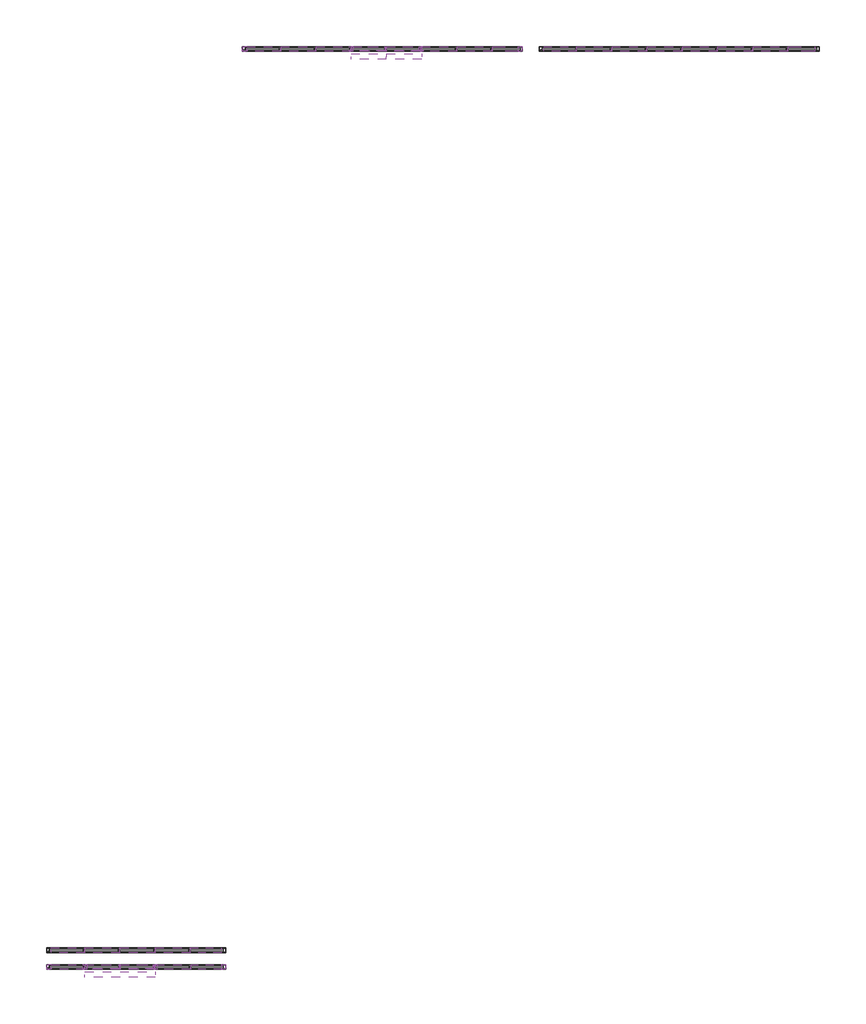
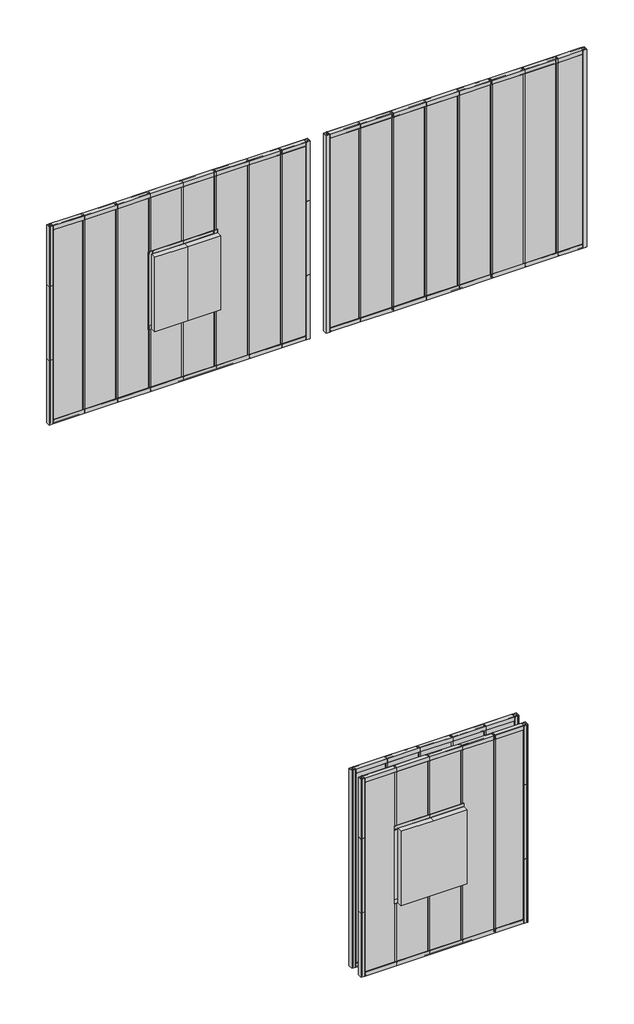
# One storey: 80 members, 33 plates.
"""IFC4 building model written with IfcOpenShell, lengths in millimetres."""

from ifc_helpers import new_model, si_unit, origin, place, context, project, spatial, transform, mapped, element, save
from components import rectangular_mullion_6ba87b63, rectangular_mullion_154195c3, rectangular_mullion_a7efbd97, rectangular_mullion_c77fbf88, rectangular_mullion_2210d2ad, rectangular_mullion_9c50ca3c, rectangular_mullion_bd61cf46, rectangular_mullion_d58dc353, rectangular_mullion_98b11ca7, rectangular_mullion_57ca20b1, rectangular_mullion_f377401c, rectangular_mullion_c68886c0, rectangular_mullion_0c10ebcb, rectangular_mullion_6e9d6120, rectangular_mullion_48fdb4e5, rectangular_mullion_933b9407, rectangular_mullion_0d149754, rectangular_mullion_8443ba7e, rectangular_mullion_7cea1330, rectangular_mullion_cee80cdc, rectangular_mullion_49ac0a23, rectangular_mullion_15ac1ae4, rectangular_mullion_7e643ca8, rectangular_mullion_a26f31a5, rectangular_mullion_a8516909, rectangular_mullion_61dcb10f, rectangular_mullion_6c52e781, rectangular_mullion_8d96c27a, rectangular_mullion_cb80de62, rectangular_mullion_58b0a984, rectangular_mullion_98820b6d, rectangular_mullion_8fb4c4e3, rectangular_mullion_66a7f719, rectangular_mullion_1a0bf495, rectangular_mullion_6eac9937, rectangular_mullion_f0db64cb, plate_2a7304a0, plate_47ad7690, plate_0a45880f, plate_dd9d4cbf, plate_1471c6be, plate_6cc84480, plate_de253ded, plate_c6edde3f, plate_110dad97, empty_system_panel_empty_d80a8f59, empty_system_panel_empty_8161270b

model = new_model("IFC4")

# Units and contexts
model_context = context("Model", 3, world=origin())
ifc_project = project(units=[si_unit("LENGTHUNIT", "METRE", prefix="MILLI")], contexts=[model_context])

# Site, building, storey
site = spatial("IfcSite", under=ifc_project)
building = spatial("IfcBuilding", under=site)
storey = spatial("IfcBuildingStorey", under=building, Name="Danpal-K7+NM", Elevation=0.0)

# Members
placement = place(None, origin())
rectangular_mullion_shape = rectangular_mullion_6ba87b63(model_context)
element("IfcMember", 1, ObjectType="Rectangular Mullion : Danpal_Airpt_End-Mullion_B1", at=placement, inside=storey, context=model_context, shape_type="MappedRepresentation", body=[
    mapped(rectangular_mullion_shape, transform((664.2822678, 2317.5512666, 2800.0), x_axis=(-1.0, 0.0, 0.0), y_axis=(0.0, -1.0, 0.0), z_axis=(0.0, 0.0, 1.0))),
])
element("IfcMember", 2, ObjectType="Rectangular Mullion : Danpal_Airpt_End-Mullion_B1", at=placement, inside=storey, context=model_context, shape_type="MappedRepresentation", body=[
    mapped(rectangular_mullion_shape, transform((4164.2822678, 18717.5512666, 2800.0), x_axis=(-1.0, 0.0, 0.0), y_axis=(0.0, -1.0, 0.0), z_axis=(0.0, 0.0, 1.0))),
])
rectangular_mullion_2_shape = rectangular_mullion_154195c3(model_context)
element("IfcMember", 3, ObjectType="Rectangular Mullion : Danpal_Airpt_End-Mullion_B2", at=placement, inside=storey, context=model_context, shape_type="MappedRepresentation", body=[
    mapped(rectangular_mullion_2_shape, transform((3864.2822678, 2317.5512666, 1300.0), x_axis=(1.0, 0.0, 0.0), y_axis=(0.0, -1.0, 0.0), z_axis=(0.0, 0.0, -1.0))),
])
element("IfcMember", 4, ObjectType="Rectangular Mullion : Danpal_Airpt_End-Mullion_B2", at=placement, inside=storey, context=model_context, shape_type="MappedRepresentation", body=[
    mapped(rectangular_mullion_2_shape, transform((9164.2822678, 18717.5512666, 1300.0), x_axis=(1.0, 0.0, 0.0), y_axis=(0.0, -1.0, 0.0), z_axis=(0.0, 0.0, -1.0))),
])
rectangular_mullion_3_shape = rectangular_mullion_a7efbd97(model_context)
element("IfcMember", 5, ObjectType="Rectangular Mullion : Danpal_Airpt_End-Mullion_B2", at=placement, inside=storey, context=model_context, shape_type="MappedRepresentation", body=[
    mapped(rectangular_mullion_3_shape, transform((1979.276364, 2317.5512666, 4000.0), x_axis=(0.0, 0.0, 1.0), y_axis=(0.0, -1.0, 0.0), z_axis=(1.0, 0.0, 0.0))),
])
element("IfcMember", 6, ObjectType="Rectangular Mullion : Danpal_Airpt_End-Mullion_B2", at=placement, inside=storey, context=model_context, shape_type="MappedRepresentation", body=[
    mapped(rectangular_mullion_3_shape, transform((2609.276364, 2317.5512666, 4000.0), x_axis=(0.0, 0.0, 1.0), y_axis=(0.0, -1.0, 0.0), z_axis=(1.0, 0.0, 0.0))),
])
element("IfcMember", 7, ObjectType="Rectangular Mullion : Danpal_Airpt_End-Mullion_B2", at=placement, inside=storey, context=model_context, shape_type="MappedRepresentation", body=[
    mapped(rectangular_mullion_3_shape, transform((3239.276364, 2317.5512666, 4000.0), x_axis=(0.0, 0.0, 1.0), y_axis=(0.0, -1.0, 0.0), z_axis=(1.0, 0.0, 0.0))),
])
element("IfcMember", 8, ObjectType="Rectangular Mullion : Danpal_Airpt_End-Mullion_B2", at=placement, inside=storey, context=model_context, shape_type="MappedRepresentation", body=[
    mapped(rectangular_mullion_3_shape, transform((8624.2238538, 18717.5512666, 4000.0), x_axis=(0.0, 0.0, 1.0), y_axis=(0.0, -1.0, 0.0), z_axis=(1.0, 0.0, 0.0))),
])
element("IfcMember", 9, ObjectType="Rectangular Mullion : Danpal_Airpt_End-Mullion_B2", at=placement, inside=storey, context=model_context, shape_type="MappedRepresentation", body=[
    mapped(rectangular_mullion_3_shape, transform((5474.2238538, 18717.5512666, 4000.0), x_axis=(0.0, 0.0, 1.0), y_axis=(0.0, -1.0, 0.0), z_axis=(1.0, 0.0, 0.0))),
])
element("IfcMember", 10, ObjectType="Rectangular Mullion : Danpal_Airpt_End-Mullion_B2", at=placement, inside=storey, context=model_context, shape_type="MappedRepresentation", body=[
    mapped(rectangular_mullion_3_shape, transform((13906.1999142, 18717.5512666, 4000.0), x_axis=(0.0, 0.0, 1.0), y_axis=(0.0, -1.0, 0.0), z_axis=(1.0, 0.0, 0.0))),
])
element("IfcMember", 11, ObjectType="Rectangular Mullion : Danpal_Airpt_End-Mullion_B2", at=placement, inside=storey, context=model_context, shape_type="MappedRepresentation", body=[
    mapped(rectangular_mullion_3_shape, transform((10756.1999142, 18717.5512666, 4000.0), x_axis=(0.0, 0.0, 1.0), y_axis=(0.0, -1.0, 0.0), z_axis=(1.0, 0.0, 0.0))),
])
rectangular_mullion_4_shape = rectangular_mullion_c77fbf88(model_context)
element("IfcMember", 12, ObjectType="Rectangular Mullion : Danpal_Airpt_End-Mullion_B1", at=placement, inside=storey, context=model_context, shape_type="MappedRepresentation", body=[
    mapped(rectangular_mullion_4_shape, transform((1349.276364, 2317.5512666, 0.0), x_axis=(0.0, 0.0, -1.0), y_axis=(0.0, -1.0, 0.0), z_axis=(-1.0, 0.0, 0.0))),
])
element("IfcMember", 13, ObjectType="Rectangular Mullion : Danpal_Airpt_End-Mullion_B1", at=placement, inside=storey, context=model_context, shape_type="MappedRepresentation", body=[
    mapped(rectangular_mullion_4_shape, transform((1979.276364, 2317.5512666, 0.0), x_axis=(0.0, 0.0, -1.0), y_axis=(0.0, -1.0, 0.0), z_axis=(-1.0, 0.0, 0.0))),
])
element("IfcMember", 14, ObjectType="Rectangular Mullion : Danpal_Airpt_End-Mullion_B1", at=placement, inside=storey, context=model_context, shape_type="MappedRepresentation", body=[
    mapped(rectangular_mullion_4_shape, transform((2609.276364, 2317.5512666, 0.0), x_axis=(0.0, 0.0, -1.0), y_axis=(0.0, -1.0, 0.0), z_axis=(-1.0, 0.0, 0.0))),
])
element("IfcMember", 15, ObjectType="Rectangular Mullion : Danpal_Airpt_End-Mullion_B1", at=placement, inside=storey, context=model_context, shape_type="MappedRepresentation", body=[
    mapped(rectangular_mullion_4_shape, transform((4844.2238538, 18717.5512666, 0.0), x_axis=(0.0, 0.0, -1.0), y_axis=(0.0, -1.0, 0.0), z_axis=(-1.0, 0.0, 0.0))),
])
element("IfcMember", 16, ObjectType="Rectangular Mullion : Danpal_Airpt_End-Mullion_B1", at=placement, inside=storey, context=model_context, shape_type="MappedRepresentation", body=[
    mapped(rectangular_mullion_4_shape, transform((5474.2238538, 18717.5512666, 0.0), x_axis=(0.0, 0.0, -1.0), y_axis=(0.0, -1.0, 0.0), z_axis=(-1.0, 0.0, 0.0))),
])
element("IfcMember", 17, ObjectType="Rectangular Mullion : Danpal_Airpt_End-Mullion_B1", at=placement, inside=storey, context=model_context, shape_type="MappedRepresentation", body=[
    mapped(rectangular_mullion_4_shape, transform((10126.1999142, 18717.5512666, 0.0), x_axis=(0.0, 0.0, -1.0), y_axis=(0.0, -1.0, 0.0), z_axis=(-1.0, 0.0, 0.0))),
])
element("IfcMember", 18, ObjectType="Rectangular Mullion : Danpal_Airpt_End-Mullion_B1", at=placement, inside=storey, context=model_context, shape_type="MappedRepresentation", body=[
    mapped(rectangular_mullion_4_shape, transform((10756.1999142, 18717.5512666, 0.0), x_axis=(0.0, 0.0, -1.0), y_axis=(0.0, -1.0, 0.0), z_axis=(-1.0, 0.0, 0.0))),
])
rectangular_mullion_5_shape = rectangular_mullion_2210d2ad(model_context)
element("IfcMember", 19, ObjectType="Rectangular Mullion : Danpal_Airpt_End-Mullion_B1", at=placement, inside=storey, context=model_context, shape_type="MappedRepresentation", body=[
    mapped(rectangular_mullion_5_shape, transform((664.2822678, 2317.5512666, 1300.0), x_axis=(-1.0, 0.0, 0.0), y_axis=(0.0, -1.0, 0.0), z_axis=(0.0, 0.0, 1.0))),
])
element("IfcMember", 20, ObjectType="Rectangular Mullion : Danpal_Airpt_End-Mullion_B1", at=placement, inside=storey, context=model_context, shape_type="MappedRepresentation", body=[
    mapped(rectangular_mullion_5_shape, transform((4164.2822678, 18717.5512666, 1300.0), x_axis=(-1.0, 0.0, 0.0), y_axis=(0.0, -1.0, 0.0), z_axis=(0.0, 0.0, 1.0))),
])
rectangular_mullion_6_shape = rectangular_mullion_9c50ca3c(model_context)
element("IfcMember", 21, ObjectType="Rectangular Mullion : Danpal_Airpt_End-Mullion_B1", at=placement, inside=storey, context=model_context, shape_type="MappedRepresentation", body=[
    mapped(rectangular_mullion_6_shape, transform((664.2822678, 2317.5512666, 4000.0), x_axis=(-1.0, 0.0, 0.0), y_axis=(0.0, -1.0, 0.0), z_axis=(0.0, 0.0, 1.0))),
])
rectangular_mullion_7_shape = rectangular_mullion_bd61cf46(model_context)
element("IfcMember", 22, ObjectType="Rectangular Mullion : Danpal_Airpt_End-Mullion_B2", at=placement, inside=storey, context=model_context, shape_type="MappedRepresentation", body=[
    mapped(rectangular_mullion_7_shape, transform((3864.2822678, 2317.5512666, 2800.0), x_axis=(1.0, 0.0, 0.0), y_axis=(0.0, -1.0, 0.0), z_axis=(0.0, 0.0, -1.0))),
])
element("IfcMember", 23, ObjectType="Rectangular Mullion : Danpal_Airpt_End-Mullion_B2", at=placement, inside=storey, context=model_context, shape_type="MappedRepresentation", body=[
    mapped(rectangular_mullion_7_shape, transform((9164.2822678, 18717.5512666, 2800.0), x_axis=(1.0, 0.0, 0.0), y_axis=(0.0, -1.0, 0.0), z_axis=(0.0, 0.0, -1.0))),
])
rectangular_mullion_8_shape = rectangular_mullion_d58dc353(model_context)
element("IfcMember", 24, ObjectType="Rectangular Mullion : Danpal_Airpt_End-Mullion_B2", at=placement, inside=storey, context=model_context, shape_type="MappedRepresentation", body=[
    mapped(rectangular_mullion_8_shape, transform((3864.2822678, 2317.5512666, 0.0), x_axis=(1.0, 0.0, 0.0), y_axis=(0.0, -1.0, 0.0), z_axis=(0.0, 0.0, -1.0))),
])
rectangular_mullion_9_shape = rectangular_mullion_98b11ca7(model_context)
element("IfcMember", 25, ObjectType="Rectangular Mullion : Danpal_Airpt_End-Mullion_B2", at=placement, inside=storey, context=model_context, shape_type="MappedRepresentation", body=[
    mapped(rectangular_mullion_9_shape, transform((1349.276364, 2317.5512666, 4000.0), x_axis=(0.0, 0.0, 1.0), y_axis=(0.0, -1.0, 0.0), z_axis=(1.0, 0.0, 0.0))),
])
rectangular_mullion_10_shape = rectangular_mullion_57ca20b1(model_context)
element("IfcMember", 26, ObjectType="Rectangular Mullion : Danpal_Airpt_End-Mullion_B1", at=placement, inside=storey, context=model_context, shape_type="MappedRepresentation", body=[
    mapped(rectangular_mullion_10_shape, transform((746.1415002, 2317.5512666, 0.0), x_axis=(0.0, 0.0, -1.0), y_axis=(0.0, -1.0, 0.0), z_axis=(-1.0, 0.0, 0.0))),
])
rectangular_mullion_11_shape = rectangular_mullion_f377401c(model_context)
element("IfcMember", 27, ObjectType="Rectangular Mullion : Danpal_Airpt_End-Mullion_B1", at=placement, inside=storey, context=model_context, shape_type="MappedRepresentation", body=[
    mapped(rectangular_mullion_11_shape, transform((2641.1940104, 2317.5512666, 2800.0), x_axis=(0.0, 0.0, 1.0), y_axis=(0.0, -1.0, 0.0), z_axis=(1.0, 0.0, 0.0))),
])
rectangular_mullion_12_shape = rectangular_mullion_c68886c0(model_context)
element("IfcMember", 28, ObjectType="Rectangular Mullion : Danpal_Airpt_End-Mullion_B2", at=placement, inside=storey, context=model_context, shape_type="MappedRepresentation", body=[
    mapped(rectangular_mullion_12_shape, transform((2641.1940104, 2317.5512666, 1300.0), x_axis=(0.0, 0.0, 1.0), y_axis=(0.0, -1.0, 0.0), z_axis=(1.0, 0.0, 0.0))),
])
rectangular_mullion_13_shape = rectangular_mullion_0c10ebcb(model_context)
element("IfcMember", 29, ObjectType="Rectangular Mullion : Danpal_Airpt_End-Mullion_B2", at=placement, inside=storey, context=model_context, shape_type="MappedRepresentation", body=[
    mapped(rectangular_mullion_13_shape, transform((3782.4230354, 2317.5512666, 4000.0), x_axis=(0.0, 0.0, 1.0), y_axis=(0.0, -1.0, 0.0), z_axis=(1.0, 0.0, 0.0))),
])
rectangular_mullion_14_shape = rectangular_mullion_6e9d6120(model_context)
element("IfcMember", 30, ObjectType="Rectangular Mullion : Danpal_Airpt_End-Mullion_B1", at=placement, inside=storey, context=model_context, shape_type="MappedRepresentation", body=[
    mapped(rectangular_mullion_14_shape, transform((3239.276364, 2317.5512666, 0.0), x_axis=(0.0, 0.0, -1.0), y_axis=(0.0, -1.0, 0.0), z_axis=(-1.0, 0.0, 0.0))),
])
element("IfcMember", 31, ObjectType="Rectangular Mullion : Danpal_Airpt_End-Mullion_B2", at=placement, inside=storey, context=model_context, shape_type="MappedRepresentation", body=[
    mapped(rectangular_mullion_3_shape, transform((1974.2238538, 2617.5512666, 4000.0), x_axis=(0.0, 0.0, 1.0), y_axis=(0.0, -1.0, 0.0), z_axis=(1.0, 0.0, 0.0))),
])
element("IfcMember", 32, ObjectType="Rectangular Mullion : Danpal_Airpt_End-Mullion_B2", at=placement, inside=storey, context=model_context, shape_type="MappedRepresentation", body=[
    mapped(rectangular_mullion_3_shape, transform((2604.2238538, 2617.5512666, 4000.0), x_axis=(0.0, 0.0, 1.0), y_axis=(0.0, -1.0, 0.0), z_axis=(1.0, 0.0, 0.0))),
])
element("IfcMember", 33, ObjectType="Rectangular Mullion : Danpal_Airpt_End-Mullion_B2", at=placement, inside=storey, context=model_context, shape_type="MappedRepresentation", body=[
    mapped(rectangular_mullion_3_shape, transform((3234.2238538, 2617.5512666, 4000.0), x_axis=(0.0, 0.0, 1.0), y_axis=(0.0, -1.0, 0.0), z_axis=(1.0, 0.0, 0.0))),
])
element("IfcMember", 34, ObjectType="Rectangular Mullion : Danpal_Airpt_End-Mullion_B2", at=placement, inside=storey, context=model_context, shape_type="MappedRepresentation", body=[
    mapped(rectangular_mullion_3_shape, transform((6104.2238538, 18717.5512666, 4000.0), x_axis=(0.0, 0.0, 1.0), y_axis=(0.0, -1.0, 0.0), z_axis=(1.0, 0.0, 0.0))),
])
element("IfcMember", 35, ObjectType="Rectangular Mullion : Danpal_Airpt_End-Mullion_B2", at=placement, inside=storey, context=model_context, shape_type="MappedRepresentation", body=[
    mapped(rectangular_mullion_3_shape, transform((6734.2238538, 18717.5512666, 4000.0), x_axis=(0.0, 0.0, 1.0), y_axis=(0.0, -1.0, 0.0), z_axis=(1.0, 0.0, 0.0))),
])
element("IfcMember", 36, ObjectType="Rectangular Mullion : Danpal_Airpt_End-Mullion_B2", at=placement, inside=storey, context=model_context, shape_type="MappedRepresentation", body=[
    mapped(rectangular_mullion_3_shape, transform((7364.2238538, 18717.5512666, 4000.0), x_axis=(0.0, 0.0, 1.0), y_axis=(0.0, -1.0, 0.0), z_axis=(1.0, 0.0, 0.0))),
])
element("IfcMember", 37, ObjectType="Rectangular Mullion : Danpal_Airpt_End-Mullion_B2", at=placement, inside=storey, context=model_context, shape_type="MappedRepresentation", body=[
    mapped(rectangular_mullion_3_shape, transform((7994.2238538, 18717.5512666, 4000.0), x_axis=(0.0, 0.0, 1.0), y_axis=(0.0, -1.0, 0.0), z_axis=(1.0, 0.0, 0.0))),
])
element("IfcMember", 38, ObjectType="Rectangular Mullion : Danpal_Airpt_End-Mullion_B2", at=placement, inside=storey, context=model_context, shape_type="MappedRepresentation", body=[
    mapped(rectangular_mullion_3_shape, transform((11386.1999142, 18717.5512666, 4000.0), x_axis=(0.0, 0.0, 1.0), y_axis=(0.0, -1.0, 0.0), z_axis=(1.0, 0.0, 0.0))),
])
element("IfcMember", 39, ObjectType="Rectangular Mullion : Danpal_Airpt_End-Mullion_B2", at=placement, inside=storey, context=model_context, shape_type="MappedRepresentation", body=[
    mapped(rectangular_mullion_3_shape, transform((12016.1999142, 18717.5512666, 4000.0), x_axis=(0.0, 0.0, 1.0), y_axis=(0.0, -1.0, 0.0), z_axis=(1.0, 0.0, 0.0))),
])
element("IfcMember", 40, ObjectType="Rectangular Mullion : Danpal_Airpt_End-Mullion_B2", at=placement, inside=storey, context=model_context, shape_type="MappedRepresentation", body=[
    mapped(rectangular_mullion_3_shape, transform((12646.1999142, 18717.5512666, 4000.0), x_axis=(0.0, 0.0, 1.0), y_axis=(0.0, -1.0, 0.0), z_axis=(1.0, 0.0, 0.0))),
])
element("IfcMember", 41, ObjectType="Rectangular Mullion : Danpal_Airpt_End-Mullion_B2", at=placement, inside=storey, context=model_context, shape_type="MappedRepresentation", body=[
    mapped(rectangular_mullion_3_shape, transform((13276.1999142, 18717.5512666, 4000.0), x_axis=(0.0, 0.0, 1.0), y_axis=(0.0, -1.0, 0.0), z_axis=(1.0, 0.0, 0.0))),
])
element("IfcMember", 42, ObjectType="Rectangular Mullion : Danpal_Airpt_End-Mullion_B1", at=placement, inside=storey, context=model_context, shape_type="MappedRepresentation", body=[
    mapped(rectangular_mullion_4_shape, transform((1344.2238538, 2617.5512666, 0.0), x_axis=(0.0, 0.0, -1.0), y_axis=(0.0, -1.0, 0.0), z_axis=(-1.0, 0.0, 0.0))),
])
element("IfcMember", 43, ObjectType="Rectangular Mullion : Danpal_Airpt_End-Mullion_B1", at=placement, inside=storey, context=model_context, shape_type="MappedRepresentation", body=[
    mapped(rectangular_mullion_4_shape, transform((1974.2238538, 2617.5512666, 0.0), x_axis=(0.0, 0.0, -1.0), y_axis=(0.0, -1.0, 0.0), z_axis=(-1.0, 0.0, 0.0))),
])
element("IfcMember", 44, ObjectType="Rectangular Mullion : Danpal_Airpt_End-Mullion_B1", at=placement, inside=storey, context=model_context, shape_type="MappedRepresentation", body=[
    mapped(rectangular_mullion_4_shape, transform((2604.2238538, 2617.5512666, 0.0), x_axis=(0.0, 0.0, -1.0), y_axis=(0.0, -1.0, 0.0), z_axis=(-1.0, 0.0, 0.0))),
])
element("IfcMember", 45, ObjectType="Rectangular Mullion : Danpal_Airpt_End-Mullion_B1", at=placement, inside=storey, context=model_context, shape_type="MappedRepresentation", body=[
    mapped(rectangular_mullion_4_shape, transform((6104.2238538, 18717.5512666, 0.0), x_axis=(0.0, 0.0, -1.0), y_axis=(0.0, -1.0, 0.0), z_axis=(-1.0, 0.0, 0.0))),
])
element("IfcMember", 46, ObjectType="Rectangular Mullion : Danpal_Airpt_End-Mullion_B1", at=placement, inside=storey, context=model_context, shape_type="MappedRepresentation", body=[
    mapped(rectangular_mullion_4_shape, transform((6734.2238538, 18717.5512666, 0.0), x_axis=(0.0, 0.0, -1.0), y_axis=(0.0, -1.0, 0.0), z_axis=(-1.0, 0.0, 0.0))),
])
element("IfcMember", 47, ObjectType="Rectangular Mullion : Danpal_Airpt_End-Mullion_B1", at=placement, inside=storey, context=model_context, shape_type="MappedRepresentation", body=[
    mapped(rectangular_mullion_4_shape, transform((7364.2238538, 18717.5512666, 0.0), x_axis=(0.0, 0.0, -1.0), y_axis=(0.0, -1.0, 0.0), z_axis=(-1.0, 0.0, 0.0))),
])
element("IfcMember", 48, ObjectType="Rectangular Mullion : Danpal_Airpt_End-Mullion_B1", at=placement, inside=storey, context=model_context, shape_type="MappedRepresentation", body=[
    mapped(rectangular_mullion_4_shape, transform((7994.2238538, 18717.5512666, 0.0), x_axis=(0.0, 0.0, -1.0), y_axis=(0.0, -1.0, 0.0), z_axis=(-1.0, 0.0, 0.0))),
])
element("IfcMember", 49, ObjectType="Rectangular Mullion : Danpal_Airpt_End-Mullion_B1", at=placement, inside=storey, context=model_context, shape_type="MappedRepresentation", body=[
    mapped(rectangular_mullion_4_shape, transform((11386.1999142, 18717.5512666, 0.0), x_axis=(0.0, 0.0, -1.0), y_axis=(0.0, -1.0, 0.0), z_axis=(-1.0, 0.0, 0.0))),
])
element("IfcMember", 50, ObjectType="Rectangular Mullion : Danpal_Airpt_End-Mullion_B1", at=placement, inside=storey, context=model_context, shape_type="MappedRepresentation", body=[
    mapped(rectangular_mullion_4_shape, transform((12016.1999142, 18717.5512666, 0.0), x_axis=(0.0, 0.0, -1.0), y_axis=(0.0, -1.0, 0.0), z_axis=(-1.0, 0.0, 0.0))),
])
element("IfcMember", 51, ObjectType="Rectangular Mullion : Danpal_Airpt_End-Mullion_B1", at=placement, inside=storey, context=model_context, shape_type="MappedRepresentation", body=[
    mapped(rectangular_mullion_4_shape, transform((12646.1999142, 18717.5512666, 0.0), x_axis=(0.0, 0.0, -1.0), y_axis=(0.0, -1.0, 0.0), z_axis=(-1.0, 0.0, 0.0))),
])
element("IfcMember", 52, ObjectType="Rectangular Mullion : Danpal_Airpt_End-Mullion_B1", at=placement, inside=storey, context=model_context, shape_type="MappedRepresentation", body=[
    mapped(rectangular_mullion_4_shape, transform((13276.1999142, 18717.5512666, 0.0), x_axis=(0.0, 0.0, -1.0), y_axis=(0.0, -1.0, 0.0), z_axis=(-1.0, 0.0, 0.0))),
])
rectangular_mullion_15_shape = rectangular_mullion_48fdb4e5(model_context)
element("IfcMember", 53, ObjectType="Rectangular Mullion : Danpal_Airpt_End-Mullion_B2", at=placement, inside=storey, context=model_context, shape_type="MappedRepresentation", body=[
    mapped(rectangular_mullion_15_shape, transform((1344.2238538, 2617.5512666, 4000.0), x_axis=(0.0, 0.0, 1.0), y_axis=(0.0, -1.0, 0.0), z_axis=(1.0, 0.0, 0.0))),
])
rectangular_mullion_16_shape = rectangular_mullion_933b9407(model_context)
element("IfcMember", 54, ObjectType="Rectangular Mullion : Danpal_Airpt_End-Mullion_B1", at=placement, inside=storey, context=model_context, shape_type="MappedRepresentation", body=[
    mapped(rectangular_mullion_16_shape, transform((746.1415002, 2617.5512666, 0.0), x_axis=(0.0, 0.0, -1.0), y_axis=(0.0, -1.0, 0.0), z_axis=(-1.0, 0.0, 0.0))),
])
element("IfcMember", 55, ObjectType="Rectangular Mullion : Danpal_Airpt_End-Mullion_B1", at=placement, inside=storey, context=model_context, shape_type="MappedRepresentation", body=[
    mapped(rectangular_mullion_16_shape, transform((4246.1415002, 18717.5512666, 0.0), x_axis=(0.0, 0.0, -1.0), y_axis=(0.0, -1.0, 0.0), z_axis=(-1.0, 0.0, 0.0))),
])
rectangular_mullion_17_shape = rectangular_mullion_0d149754(model_context)
element("IfcMember", 56, ObjectType="Rectangular Mullion : Danpal_Airpt_End-Mullion_B1", at=placement, inside=storey, context=model_context, shape_type="MappedRepresentation", body=[
    mapped(rectangular_mullion_17_shape, transform((664.2822678, 2617.5512666, 4000.0), x_axis=(-1.0, 0.0, 0.0), y_axis=(0.0, -1.0, 0.0), z_axis=(0.0, 0.0, 1.0))),
])
element("IfcMember", 57, ObjectType="Rectangular Mullion : Danpal_Airpt_End-Mullion_B1", at=placement, inside=storey, context=model_context, shape_type="MappedRepresentation", body=[
    mapped(rectangular_mullion_17_shape, transform((9464.2822678, 18717.5512666, 4000.0), x_axis=(-1.0, 0.0, 0.0), y_axis=(0.0, -1.0, 0.0), z_axis=(0.0, 0.0, 1.0))),
])
rectangular_mullion_18_shape = rectangular_mullion_8443ba7e(model_context)
element("IfcMember", 58, ObjectType="Rectangular Mullion : Danpal_Airpt_End-Mullion_B1", at=placement, inside=storey, context=model_context, shape_type="MappedRepresentation", body=[
    mapped(rectangular_mullion_18_shape, transform((3234.2238538, 2617.5512666, 0.0), x_axis=(0.0, 0.0, -1.0), y_axis=(0.0, -1.0, 0.0), z_axis=(-1.0, 0.0, 0.0))),
])
rectangular_mullion_19_shape = rectangular_mullion_7cea1330(model_context)
element("IfcMember", 59, ObjectType="Rectangular Mullion : Danpal_Airpt_End-Mullion_B2", at=placement, inside=storey, context=model_context, shape_type="MappedRepresentation", body=[
    mapped(rectangular_mullion_19_shape, transform((3782.4230354, 2617.5512666, 4000.0), x_axis=(0.0, 0.0, 1.0), y_axis=(0.0, -1.0, 0.0), z_axis=(1.0, 0.0, 0.0))),
])
rectangular_mullion_20_shape = rectangular_mullion_cee80cdc(model_context)
element("IfcMember", 60, ObjectType="Rectangular Mullion : Danpal_Airpt_End-Mullion_B2", at=placement, inside=storey, context=model_context, shape_type="MappedRepresentation", body=[
    mapped(rectangular_mullion_20_shape, transform((3864.2822678, 2617.5512666, 0.0), x_axis=(1.0, 0.0, 0.0), y_axis=(0.0, -1.0, 0.0), z_axis=(0.0, 0.0, -1.0))),
])
element("IfcMember", 61, ObjectType="Rectangular Mullion : Danpal_Airpt_End-Mullion_B2", at=placement, inside=storey, context=model_context, shape_type="MappedRepresentation", body=[
    mapped(rectangular_mullion_20_shape, transform((14464.2822678, 18717.5512666, 0.0), x_axis=(1.0, 0.0, 0.0), y_axis=(0.0, -1.0, 0.0), z_axis=(0.0, 0.0, -1.0))),
])
rectangular_mullion_21_shape = rectangular_mullion_49ac0a23(model_context)
element("IfcMember", 62, ObjectType="Rectangular Mullion : Danpal_Airpt_End-Mullion_B1", at=placement, inside=storey, context=model_context, shape_type="MappedRepresentation", body=[
    mapped(rectangular_mullion_21_shape, transform((2609.276364, 2317.5512666, 1341.995316), x_axis=(1.0, 0.0, 0.0), y_axis=(0.0, -1.0, 0.0), z_axis=(0.0, 0.0, -1.0))),
])
rectangular_mullion_22_shape = rectangular_mullion_15ac1ae4(model_context)
element("IfcMember", 63, ObjectType="Rectangular Mullion : Danpal_Airpt_End-Mullion_B2", at=placement, inside=storey, context=model_context, shape_type="MappedRepresentation", body=[
    mapped(rectangular_mullion_22_shape, transform((1979.276364, 2317.5512666, 1300.0), x_axis=(0.0, 0.0, 1.0), y_axis=(0.0, -1.0, 0.0), z_axis=(1.0, 0.0, 0.0))),
])
rectangular_mullion_23_shape = rectangular_mullion_7e643ca8(model_context)
element("IfcMember", 64, ObjectType="Rectangular Mullion : Danpal_Airpt_End-Mullion_B1", at=placement, inside=storey, context=model_context, shape_type="MappedRepresentation", body=[
    mapped(rectangular_mullion_23_shape, transform((1979.276364, 2317.5512666, 2800.0), x_axis=(0.0, 0.0, 1.0), y_axis=(0.0, -1.0, 0.0), z_axis=(1.0, 0.0, 0.0))),
])
rectangular_mullion_24_shape = rectangular_mullion_a26f31a5(model_context)
element("IfcMember", 65, ObjectType="Rectangular Mullion : Danpal_Airpt_End-Mullion_B2", at=placement, inside=storey, context=model_context, shape_type="MappedRepresentation", body=[
    mapped(rectangular_mullion_24_shape, transform((1349.276364, 2317.5512666, 1341.995316), x_axis=(1.0, 0.0, 0.0), y_axis=(0.0, -1.0, 0.0), z_axis=(0.0, 0.0, -1.0))),
])
rectangular_mullion_25_shape = rectangular_mullion_a8516909(model_context)
element("IfcMember", 66, ObjectType="Rectangular Mullion : Danpal_Airpt_End-Mullion_B2", at=placement, inside=storey, context=model_context, shape_type="MappedRepresentation", body=[
    mapped(rectangular_mullion_25_shape, transform((14382.4230354, 18717.5512666, 4000.0), x_axis=(0.0, 0.0, 1.0), y_axis=(0.0, -1.0, 0.0), z_axis=(1.0, 0.0, 0.0))),
])
rectangular_mullion_26_shape = rectangular_mullion_61dcb10f(model_context)
element("IfcMember", 67, ObjectType="Rectangular Mullion : Danpal_Airpt_End-Mullion_B1", at=placement, inside=storey, context=model_context, shape_type="MappedRepresentation", body=[
    mapped(rectangular_mullion_26_shape, transform((13906.1999142, 18717.5512666, 0.0), x_axis=(0.0, 0.0, -1.0), y_axis=(0.0, -1.0, 0.0), z_axis=(-1.0, 0.0, 0.0))),
])
rectangular_mullion_27_shape = rectangular_mullion_6c52e781(model_context)
element("IfcMember", 68, ObjectType="Rectangular Mullion : Danpal_Airpt_End-Mullion_B2", at=placement, inside=storey, context=model_context, shape_type="MappedRepresentation", body=[
    mapped(rectangular_mullion_27_shape, transform((10126.1999142, 18717.5512666, 4000.0), x_axis=(0.0, 0.0, 1.0), y_axis=(0.0, -1.0, 0.0), z_axis=(1.0, 0.0, 0.0))),
])
rectangular_mullion_28_shape = rectangular_mullion_8d96c27a(model_context)
element("IfcMember", 69, ObjectType="Rectangular Mullion : Danpal_Airpt_End-Mullion_B1", at=placement, inside=storey, context=model_context, shape_type="MappedRepresentation", body=[
    mapped(rectangular_mullion_28_shape, transform((9546.1415002, 18717.5512666, 0.0), x_axis=(0.0, 0.0, -1.0), y_axis=(0.0, -1.0, 0.0), z_axis=(-1.0, 0.0, 0.0))),
])
rectangular_mullion_29_shape = rectangular_mullion_cb80de62(model_context)
element("IfcMember", 70, ObjectType="Rectangular Mullion : Danpal_Airpt_End-Mullion_B2", at=placement, inside=storey, context=model_context, shape_type="MappedRepresentation", body=[
    mapped(rectangular_mullion_29_shape, transform((9082.4230354, 18717.5512666, 4000.0), x_axis=(0.0, 0.0, 1.0), y_axis=(0.0, -1.0, 0.0), z_axis=(1.0, 0.0, 0.0))),
])
rectangular_mullion_30_shape = rectangular_mullion_58b0a984(model_context)
element("IfcMember", 71, ObjectType="Rectangular Mullion : Danpal_Airpt_End-Mullion_B1", at=placement, inside=storey, context=model_context, shape_type="MappedRepresentation", body=[
    mapped(rectangular_mullion_30_shape, transform((8624.2238538, 18717.5512666, 0.0), x_axis=(0.0, 0.0, -1.0), y_axis=(0.0, -1.0, 0.0), z_axis=(-1.0, 0.0, 0.0))),
])
element("IfcMember", 72, ObjectType="Rectangular Mullion : Danpal_Airpt_End-Mullion_B2", at=placement, inside=storey, context=model_context, shape_type="MappedRepresentation", body=[
    mapped(rectangular_mullion_15_shape, transform((4844.2238538, 18717.5512666, 4000.0), x_axis=(0.0, 0.0, 1.0), y_axis=(0.0, -1.0, 0.0), z_axis=(1.0, 0.0, 0.0))),
])
element("IfcMember", 73, ObjectType="Rectangular Mullion : Danpal_Airpt_End-Mullion_B1", at=placement, inside=storey, context=model_context, shape_type="MappedRepresentation", body=[
    mapped(rectangular_mullion_6_shape, transform((4164.2822678, 18717.5512666, 4000.0), x_axis=(-1.0, 0.0, 0.0), y_axis=(0.0, -1.0, 0.0), z_axis=(0.0, 0.0, 1.0))),
])
element("IfcMember", 74, ObjectType="Rectangular Mullion : Danpal_Airpt_End-Mullion_B2", at=placement, inside=storey, context=model_context, shape_type="MappedRepresentation", body=[
    mapped(rectangular_mullion_8_shape, transform((9164.2822678, 18717.5512666, 0.0), x_axis=(1.0, 0.0, 0.0), y_axis=(0.0, -1.0, 0.0), z_axis=(0.0, 0.0, -1.0))),
])
rectangular_mullion_31_shape = rectangular_mullion_98820b6d(model_context)
element("IfcMember", 75, ObjectType="Rectangular Mullion : Danpal_Airpt_End-Mullion_B1", at=placement, inside=storey, context=model_context, shape_type="MappedRepresentation", body=[
    mapped(rectangular_mullion_31_shape, transform((7314.2822678, 18717.5512666, 2800.0), x_axis=(0.0, 0.0, 1.0), y_axis=(0.0, -1.0, 0.0), z_axis=(1.0, 0.0, 0.0))),
])
rectangular_mullion_32_shape = rectangular_mullion_8fb4c4e3(model_context)
element("IfcMember", 76, ObjectType="Rectangular Mullion : Danpal_Airpt_End-Mullion_B1", at=placement, inside=storey, context=model_context, shape_type="MappedRepresentation", body=[
    mapped(rectangular_mullion_32_shape, transform((7364.2238538, 18717.5512666, 1260.1360836), x_axis=(1.0, 0.0, 0.0), y_axis=(0.0, -1.0, 0.0), z_axis=(0.0, 0.0, -1.0))),
])
rectangular_mullion_33_shape = rectangular_mullion_66a7f719(model_context)
element("IfcMember", 77, ObjectType="Rectangular Mullion : Danpal_Airpt_End-Mullion_B2", at=placement, inside=storey, context=model_context, shape_type="MappedRepresentation", body=[
    mapped(rectangular_mullion_33_shape, transform((7314.2822678, 18717.5512666, 1300.0), x_axis=(0.0, 0.0, 1.0), y_axis=(0.0, -1.0, 0.0), z_axis=(1.0, 0.0, 0.0))),
])
rectangular_mullion_34_shape = rectangular_mullion_1a0bf495(model_context)
element("IfcMember", 78, ObjectType="Rectangular Mullion : Danpal_Airpt_End-Mullion_B1", at=placement, inside=storey, context=model_context, shape_type="MappedRepresentation", body=[
    mapped(rectangular_mullion_34_shape, transform((6734.2238538, 18717.5512666, 2800.0), x_axis=(0.0, 0.0, 1.0), y_axis=(0.0, -1.0, 0.0), z_axis=(1.0, 0.0, 0.0))),
])
rectangular_mullion_35_shape = rectangular_mullion_6eac9937(model_context)
element("IfcMember", 79, ObjectType="Rectangular Mullion : Danpal_Airpt_End-Mullion_B2", at=placement, inside=storey, context=model_context, shape_type="MappedRepresentation", body=[
    mapped(rectangular_mullion_35_shape, transform((6734.2238538, 18717.5512666, 1300.0), x_axis=(0.0, 0.0, 1.0), y_axis=(0.0, -1.0, 0.0), z_axis=(1.0, 0.0, 0.0))),
])
rectangular_mullion_36_shape = rectangular_mullion_f0db64cb(model_context)
element("IfcMember", 80, ObjectType="Rectangular Mullion : Danpal_Airpt_End-Mullion_B2", at=placement, inside=storey, context=model_context, shape_type="MappedRepresentation", body=[
    mapped(rectangular_mullion_36_shape, transform((6104.2238538, 18717.5512666, 1260.1360836), x_axis=(1.0, 0.0, 0.0), y_axis=(0.0, -1.0, 0.0), z_axis=(0.0, 0.0, -1.0))),
])

# Plates
plate_shape = plate_2a7304a0(model_context)
element("IfcPlate", 81, ObjectType="Walls_External-Walls_Danpal_Danpatherm-K7-with-NM-Frame : Walls_External-Walls_Danpal_Danpatherm-K7-with-NM-Frame", at=placement, inside=storey, context=model_context, shape_type="MappedRepresentation", body=[
    mapped(plate_shape, transform((1664.276364, 2317.5512666, 49.941586), x_axis=(1.0, 0.0, 0.0), y_axis=(0.0, 1.0, 0.0), z_axis=(0.0, 0.0, 1.0))),
])
element("IfcPlate", 82, ObjectType="Walls_External-Walls_Danpal_Danpatherm-K7-with-NM-Frame : Walls_External-Walls_Danpal_Danpatherm-K7-with-NM-Frame", at=placement, inside=storey, context=model_context, shape_type="MappedRepresentation", body=[
    mapped(plate_shape, transform((2294.276364, 2317.5512666, 49.941586), x_axis=(1.0, 0.0, 0.0), y_axis=(0.0, 1.0, 0.0), z_axis=(0.0, 0.0, 1.0))),
])
element("IfcPlate", 83, ObjectType="Walls_External-Walls_Danpal_Danpatherm-K7-with-NM-Frame : Walls_External-Walls_Danpal_Danpatherm-K7-with-NM-Frame", at=placement, inside=storey, context=model_context, shape_type="MappedRepresentation", body=[
    mapped(plate_shape, transform((6419.2238538, 18717.5512666, 49.941586), x_axis=(1.0, 0.0, 0.0), y_axis=(0.0, 1.0, 0.0), z_axis=(0.0, 0.0, 1.0))),
])
element("IfcPlate", 84, ObjectType="Walls_External-Walls_Danpal_Danpatherm-K7-with-NM-Frame : Walls_External-Walls_Danpal_Danpatherm-K7-with-NM-Frame", at=placement, inside=storey, context=model_context, shape_type="MappedRepresentation", body=[
    mapped(plate_shape, transform((7049.2238538, 18717.5512666, 49.941586), x_axis=(1.0, 0.0, 0.0), y_axis=(0.0, 1.0, 0.0), z_axis=(0.0, 0.0, 1.0))),
])
plate_2_shape = plate_47ad7690(model_context)
element("IfcPlate", 85, ObjectType="Walls_External-Walls_Danpal_Danpatherm-K7-with-NM-Frame : Walls_External-Walls_Danpal_Danpatherm-K7-with-NM-Frame", at=placement, inside=storey, context=model_context, shape_type="MappedRepresentation", body=[
    mapped(plate_2_shape, transform((3530.7816579, 2317.5512666, 49.941586), x_axis=(1.0, 0.0, 0.0), y_axis=(0.0, 1.0, 0.0), z_axis=(0.0, 0.0, 1.0))),
])
plate_3_shape = plate_0a45880f(model_context)
element("IfcPlate", 86, ObjectType="Walls_External-Walls_Danpal_Danpatherm-K7-with-NM-Frame : Walls_External-Walls_Danpal_Danpatherm-K7-with-NM-Frame", at=placement, inside=storey, context=model_context, shape_type="MappedRepresentation", body=[
    mapped(plate_3_shape, transform((1664.276364, 2317.5512666, 2800.0), x_axis=(1.0, 0.0, 0.0), y_axis=(0.0, 1.0, 0.0), z_axis=(0.0, 0.0, 1.0))),
])
element("IfcPlate", 87, ObjectType="Walls_External-Walls_Danpal_Danpatherm-K7-with-NM-Frame : Walls_External-Walls_Danpal_Danpatherm-K7-with-NM-Frame", at=placement, inside=storey, context=model_context, shape_type="MappedRepresentation", body=[
    mapped(plate_3_shape, transform((2294.276364, 2317.5512666, 2800.0), x_axis=(1.0, 0.0, 0.0), y_axis=(0.0, 1.0, 0.0), z_axis=(0.0, 0.0, 1.0))),
])
element("IfcPlate", 88, ObjectType="Walls_External-Walls_Danpal_Danpatherm-K7-with-NM-Frame : Walls_External-Walls_Danpal_Danpatherm-K7-with-NM-Frame", at=placement, inside=storey, context=model_context, shape_type="MappedRepresentation", body=[
    mapped(plate_3_shape, transform((6419.2238538, 18717.5512666, 2800.0), x_axis=(1.0, 0.0, 0.0), y_axis=(0.0, 1.0, 0.0), z_axis=(0.0, 0.0, 1.0))),
])
element("IfcPlate", 89, ObjectType="Walls_External-Walls_Danpal_Danpatherm-K7-with-NM-Frame : Walls_External-Walls_Danpal_Danpatherm-K7-with-NM-Frame", at=placement, inside=storey, context=model_context, shape_type="MappedRepresentation", body=[
    mapped(plate_3_shape, transform((7049.2238538, 18717.5512666, 2800.0), x_axis=(1.0, 0.0, 0.0), y_axis=(0.0, 1.0, 0.0), z_axis=(0.0, 0.0, 1.0))),
])
plate_4_shape = plate_dd9d4cbf(model_context)
element("IfcPlate", 90, ObjectType="Walls_External-Walls_Danpal_Danpatherm-K7-with-NM-Frame : Walls_External-Walls_Danpal_Danpatherm-K7-with-NM-Frame", at=placement, inside=storey, context=model_context, shape_type="MappedRepresentation", body=[
    mapped(plate_4_shape, transform((1031.7501089, 2317.5512666, 49.941586), x_axis=(1.0, 0.0, 0.0), y_axis=(0.0, 1.0, 0.0), z_axis=(0.0, 0.0, 1.0))),
])
plate_5_shape = plate_1471c6be(model_context)
element("IfcPlate", 91, ObjectType="Walls_External-Walls_Danpal_Danpatherm-K7-with-NM-Frame : Walls_External-Walls_Danpal_Danpatherm-K7-with-NM-Frame", at=placement, inside=storey, context=model_context, shape_type="MappedRepresentation", body=[
    mapped(plate_5_shape, transform((2924.276364, 2317.5512666, 49.941586), x_axis=(1.0, 0.0, 0.0), y_axis=(0.0, 1.0, 0.0), z_axis=(0.0, 0.0, 1.0))),
])
element("IfcPlate", 92, ObjectType="Walls_External-Walls_Danpal_Danpatherm-K7-with-NM-Frame : Walls_External-Walls_Danpal_Danpatherm-K7-with-NM-Frame", at=placement, inside=storey, context=model_context, shape_type="MappedRepresentation", body=[
    mapped(plate_5_shape, transform((4529.2238538, 18717.5512666, 49.941586), x_axis=(1.0, 0.0, 0.0), y_axis=(0.0, 1.0, 0.0), z_axis=(0.0, 0.0, 1.0))),
])
element("IfcPlate", 93, ObjectType="Walls_External-Walls_Danpal_Danpatherm-K7-with-NM-Frame : Walls_External-Walls_Danpal_Danpatherm-K7-with-NM-Frame", at=placement, inside=storey, context=model_context, shape_type="MappedRepresentation", body=[
    mapped(plate_5_shape, transform((7679.2238538, 18717.5512666, 49.941586), x_axis=(1.0, 0.0, 0.0), y_axis=(0.0, 1.0, 0.0), z_axis=(0.0, 0.0, 1.0))),
])
element("IfcPlate", 94, ObjectType="Walls_External-Walls_Danpal_Danpatherm-K7-with-NM-Frame : Walls_External-Walls_Danpal_Danpatherm-K7-with-NM-Frame", at=placement, inside=storey, context=model_context, shape_type="MappedRepresentation", body=[
    mapped(plate_5_shape, transform((8309.2238538, 18717.5512666, 49.941586), x_axis=(1.0, 0.0, 0.0), y_axis=(0.0, 1.0, 0.0), z_axis=(0.0, 0.0, 1.0))),
])
element("IfcPlate", 95, ObjectType="Walls_External-Walls_Danpal_Danpatherm-K7-with-NM-Frame : Walls_External-Walls_Danpal_Danpatherm-K7-with-NM-Frame", at=placement, inside=storey, context=model_context, shape_type="MappedRepresentation", body=[
    mapped(plate_5_shape, transform((5789.2238538, 18717.5512666, 49.941586), x_axis=(1.0, 0.0, 0.0), y_axis=(0.0, 1.0, 0.0), z_axis=(0.0, 0.0, 1.0))),
])
element("IfcPlate", 96, ObjectType="Walls_External-Walls_Danpal_Danpatherm-K7-with-NM-Frame : Walls_External-Walls_Danpal_Danpatherm-K7-with-NM-Frame", at=placement, inside=storey, context=model_context, shape_type="MappedRepresentation", body=[
    mapped(plate_5_shape, transform((5159.2238538, 18717.5512666, 49.941586), x_axis=(1.0, 0.0, 0.0), y_axis=(0.0, 1.0, 0.0), z_axis=(0.0, 0.0, 1.0))),
])
element("IfcPlate", 97, ObjectType="Walls_External-Walls_Danpal_Danpatherm-K7-with-NM-Frame : Walls_External-Walls_Danpal_Danpatherm-K7-with-NM-Frame", at=placement, inside=storey, context=model_context, shape_type="MappedRepresentation", body=[
    mapped(plate_5_shape, transform((1029.2238538, 2617.5512666, 49.941586), x_axis=(1.0, 0.0, 0.0), y_axis=(0.0, 1.0, 0.0), z_axis=(0.0, 0.0, 1.0))),
])
element("IfcPlate", 98, ObjectType="Walls_External-Walls_Danpal_Danpatherm-K7-with-NM-Frame : Walls_External-Walls_Danpal_Danpatherm-K7-with-NM-Frame", at=placement, inside=storey, context=model_context, shape_type="MappedRepresentation", body=[
    mapped(plate_5_shape, transform((1659.2238538, 2617.5512666, 49.941586), x_axis=(1.0, 0.0, 0.0), y_axis=(0.0, 1.0, 0.0), z_axis=(0.0, 0.0, 1.0))),
])
element("IfcPlate", 99, ObjectType="Walls_External-Walls_Danpal_Danpatherm-K7-with-NM-Frame : Walls_External-Walls_Danpal_Danpatherm-K7-with-NM-Frame", at=placement, inside=storey, context=model_context, shape_type="MappedRepresentation", body=[
    mapped(plate_5_shape, transform((2289.2238538, 2617.5512666, 49.941586), x_axis=(1.0, 0.0, 0.0), y_axis=(0.0, 1.0, 0.0), z_axis=(0.0, 0.0, 1.0))),
])
element("IfcPlate", 100, ObjectType="Walls_External-Walls_Danpal_Danpatherm-K7-with-NM-Frame : Walls_External-Walls_Danpal_Danpatherm-K7-with-NM-Frame", at=placement, inside=storey, context=model_context, shape_type="MappedRepresentation", body=[
    mapped(plate_5_shape, transform((2919.2238538, 2617.5512666, 49.941586), x_axis=(1.0, 0.0, 0.0), y_axis=(0.0, 1.0, 0.0), z_axis=(0.0, 0.0, 1.0))),
])
element("IfcPlate", 101, ObjectType="Walls_External-Walls_Danpal_Danpatherm-K7-with-NM-Frame : Walls_External-Walls_Danpal_Danpatherm-K7-with-NM-Frame", at=placement, inside=storey, context=model_context, shape_type="MappedRepresentation", body=[
    mapped(plate_5_shape, transform((11701.1999142, 18717.5512666, 49.941586), x_axis=(1.0, 0.0, 0.0), y_axis=(0.0, 1.0, 0.0), z_axis=(0.0, 0.0, 1.0))),
])
element("IfcPlate", 102, ObjectType="Walls_External-Walls_Danpal_Danpatherm-K7-with-NM-Frame : Walls_External-Walls_Danpal_Danpatherm-K7-with-NM-Frame", at=placement, inside=storey, context=model_context, shape_type="MappedRepresentation", body=[
    mapped(plate_5_shape, transform((12331.1999142, 18717.5512666, 49.941586), x_axis=(1.0, 0.0, 0.0), y_axis=(0.0, 1.0, 0.0), z_axis=(0.0, 0.0, 1.0))),
])
element("IfcPlate", 103, ObjectType="Walls_External-Walls_Danpal_Danpatherm-K7-with-NM-Frame : Walls_External-Walls_Danpal_Danpatherm-K7-with-NM-Frame", at=placement, inside=storey, context=model_context, shape_type="MappedRepresentation", body=[
    mapped(plate_5_shape, transform((12961.1999142, 18717.5512666, 49.941586), x_axis=(1.0, 0.0, 0.0), y_axis=(0.0, 1.0, 0.0), z_axis=(0.0, 0.0, 1.0))),
])
element("IfcPlate", 104, ObjectType="Walls_External-Walls_Danpal_Danpatherm-K7-with-NM-Frame : Walls_External-Walls_Danpal_Danpatherm-K7-with-NM-Frame", at=placement, inside=storey, context=model_context, shape_type="MappedRepresentation", body=[
    mapped(plate_5_shape, transform((13591.1999142, 18717.5512666, 49.941586), x_axis=(1.0, 0.0, 0.0), y_axis=(0.0, 1.0, 0.0), z_axis=(0.0, 0.0, 1.0))),
])
element("IfcPlate", 105, ObjectType="Walls_External-Walls_Danpal_Danpatherm-K7-with-NM-Frame : Walls_External-Walls_Danpal_Danpatherm-K7-with-NM-Frame", at=placement, inside=storey, context=model_context, shape_type="MappedRepresentation", body=[
    mapped(plate_5_shape, transform((11071.1999142, 18717.5512666, 49.941586), x_axis=(1.0, 0.0, 0.0), y_axis=(0.0, 1.0, 0.0), z_axis=(0.0, 0.0, 1.0))),
])
element("IfcPlate", 106, ObjectType="Walls_External-Walls_Danpal_Danpatherm-K7-with-NM-Frame : Walls_External-Walls_Danpal_Danpatherm-K7-with-NM-Frame", at=placement, inside=storey, context=model_context, shape_type="MappedRepresentation", body=[
    mapped(plate_5_shape, transform((10441.1999142, 18717.5512666, 49.941586), x_axis=(1.0, 0.0, 0.0), y_axis=(0.0, 1.0, 0.0), z_axis=(0.0, 0.0, 1.0))),
])
plate_6_shape = plate_6cc84480(model_context)
element("IfcPlate", 107, ObjectType="Walls_External-Walls_Danpal_Danpatherm-K7-with-NM-Frame : Walls_External-Walls_Danpal_Danpatherm-K7-with-NM-Frame", at=placement, inside=storey, context=model_context, shape_type="MappedRepresentation", body=[
    mapped(plate_6_shape, transform((3528.2554028, 2617.5512666, 49.941586), x_axis=(1.0, 0.0, 0.0), y_axis=(0.0, 1.0, 0.0), z_axis=(0.0, 0.0, 1.0))),
])
plate_7_shape = plate_de253ded(model_context)
element("IfcPlate", 108, ObjectType="Walls_External-Walls_Danpal_Danpatherm-K7-with-NM-Frame : Walls_External-Walls_Danpal_Danpatherm-K7-with-NM-Frame", at=placement, inside=storey, context=model_context, shape_type="MappedRepresentation", body=[
    mapped(plate_7_shape, transform((9820.211884, 18717.5512666, 49.941586), x_axis=(1.0, 0.0, 0.0), y_axis=(0.0, 1.0, 0.0), z_axis=(0.0, 0.0, 1.0))),
])
plate_8_shape = plate_c6edde3f(model_context)
element("IfcPlate", 109, ObjectType="Walls_External-Walls_Danpal_Danpatherm-K7-with-NM-Frame : Walls_External-Walls_Danpal_Danpatherm-K7-with-NM-Frame", at=placement, inside=storey, context=model_context, shape_type="MappedRepresentation", body=[
    mapped(plate_8_shape, transform((14164.243433, 18717.5512666, 49.941586), x_axis=(1.0, 0.0, 0.0), y_axis=(0.0, 1.0, 0.0), z_axis=(0.0, 0.0, 1.0))),
])
plate_9_shape = plate_110dad97(model_context)
element("IfcPlate", 110, ObjectType="Walls_External-Walls_Danpal_Danpatherm-K7-with-NM-Frame : Walls_External-Walls_Danpal_Danpatherm-K7-with-NM-Frame", at=placement, inside=storey, context=model_context, shape_type="MappedRepresentation", body=[
    mapped(plate_9_shape, transform((8873.2554028, 18717.5512666, 49.941586), x_axis=(1.0, 0.0, 0.0), y_axis=(0.0, 1.0, 0.0), z_axis=(0.0, 0.0, 1.0))),
])
empty_system_panel_empty_shape = empty_system_panel_empty_d80a8f59(model_context)
element("IfcPlate", 111, ObjectType="Empty System Panel : Empty", at=placement, inside=storey, context=model_context, shape_type="MappedRepresentation", body=[
    mapped(empty_system_panel_empty_shape, transform((1979.276364, 2317.5512666, 1300.0), x_axis=(1.0, 0.0, 0.0), y_axis=(0.0, 1.0, 0.0), z_axis=(0.0, 0.0, 1.0))),
])
empty_system_panel_empty_2_shape = empty_system_panel_empty_8161270b(model_context)
element("IfcPlate", 112, ObjectType="Empty System Panel : Empty", at=placement, inside=storey, context=model_context, shape_type="MappedRepresentation", body=[
    mapped(empty_system_panel_empty_2_shape, transform((6419.2238538, 18717.5512666, 1300.0), x_axis=(1.0, 0.0, 0.0), y_axis=(0.0, 1.0, 0.0), z_axis=(0.0, 0.0, 1.0))),
])
element("IfcPlate", 113, ObjectType="Empty System Panel : Empty", at=placement, inside=storey, context=model_context, shape_type="MappedRepresentation", body=[
    mapped(empty_system_panel_empty_2_shape, transform((7049.2238538, 18717.5512666, 1300.0), x_axis=(1.0, 0.0, 0.0), y_axis=(0.0, 1.0, 0.0), z_axis=(0.0, 0.0, 1.0))),
])

save(model, "model.ifc")
